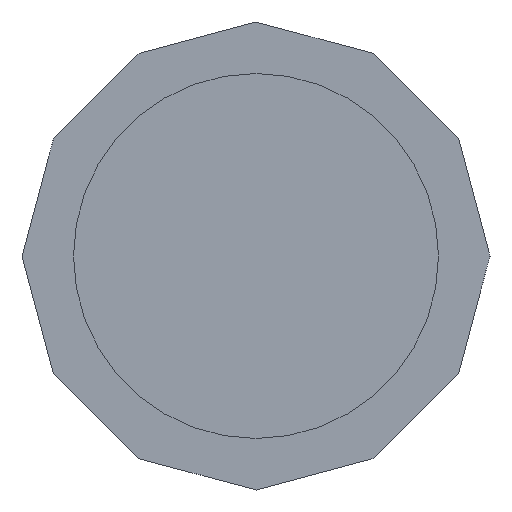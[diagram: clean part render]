
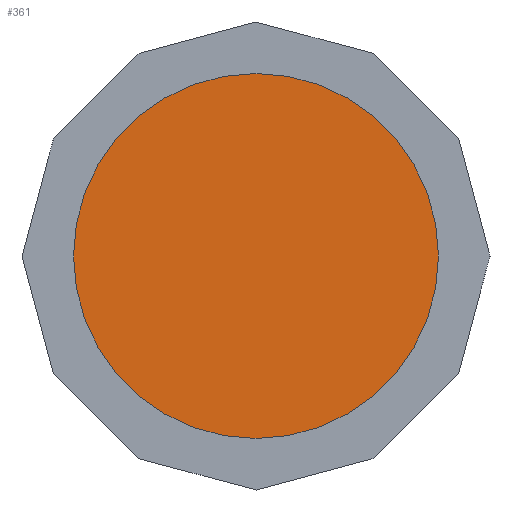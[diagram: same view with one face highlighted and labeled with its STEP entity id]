
A CAD part, front view. The second image highlights one B-rep face of the part: STEP entity #361.
In plain terms, the highlighted planar face has unit normal (0, -1, 0).
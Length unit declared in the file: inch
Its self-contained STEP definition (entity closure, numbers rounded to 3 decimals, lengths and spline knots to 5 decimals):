
#35 = DIRECTION ( 'NONE',  ( 0., 0., -1. ) ) ;
#88 = FACE_OUTER_BOUND ( 'NONE', #288, .T. ) ;
#217 = CIRCLE ( 'NONE', #1012, 0.59449 ) ;
#235 = CARTESIAN_POINT ( 'NONE',  ( 0., 0., 0. ) ) ;
#263 = EDGE_CURVE ( 'NONE', #345, #290, #338, .T. ) ;
#288 = EDGE_LOOP ( 'NONE', ( #381, #954 ) ) ;
#290 = VERTEX_POINT ( 'NONE', #403 ) ;
#313 = EDGE_CURVE ( 'NONE', #290, #345, #217, .T. ) ;
#325 = DIRECTION ( 'NONE',  ( 0., -1., 0. ) ) ;
#338 = CIRCLE ( 'NONE', #558, 0.59449 ) ;
#345 = VERTEX_POINT ( 'NONE', #699 ) ;
#361 = ADVANCED_FACE ( 'NONE', ( #88 ), #438, .T. ) ;
#381 = ORIENTED_EDGE ( 'NONE', *, *, #313, .T. ) ;
#403 = CARTESIAN_POINT ( 'NONE',  ( 0., 0., -0.59449 ) ) ;
#438 = PLANE ( 'NONE',  #619 ) ;
#524 = DIRECTION ( 'NONE',  ( 0., -1., 0. ) ) ;
#558 = AXIS2_PLACEMENT_3D ( 'NONE', #235, #325, #578 ) ;
#578 = DIRECTION ( 'NONE',  ( 0., 0., -1. ) ) ;
#612 = DIRECTION ( 'NONE',  ( 0., 0., -1. ) ) ;
#619 = AXIS2_PLACEMENT_3D ( 'NONE', #711, #809, #35 ) ;
#699 = CARTESIAN_POINT ( 'NONE',  ( 0., 0., 0.59449 ) ) ;
#711 = CARTESIAN_POINT ( 'NONE',  ( -0.59449, 0., 0. ) ) ;
#809 = DIRECTION ( 'NONE',  ( 0., -1., 0. ) ) ;
#954 = ORIENTED_EDGE ( 'NONE', *, *, #263, .T. ) ;
#1012 = AXIS2_PLACEMENT_3D ( 'NONE', #1033, #524, #612 ) ;
#1033 = CARTESIAN_POINT ( 'NONE',  ( 0., 0., 0. ) ) ;
